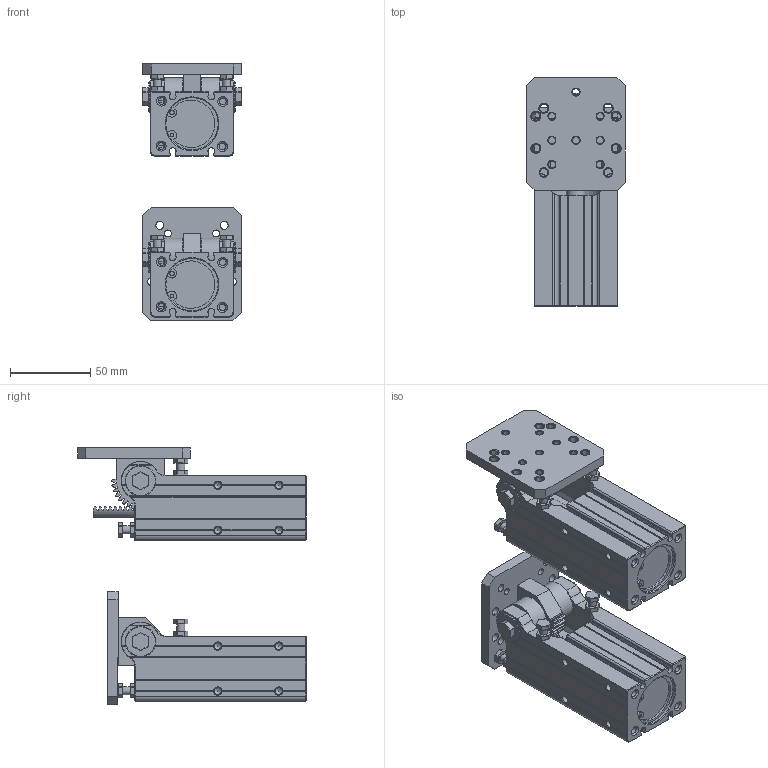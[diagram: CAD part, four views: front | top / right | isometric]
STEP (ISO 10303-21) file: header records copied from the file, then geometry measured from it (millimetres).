
FILE_DESCRIPTION(/* description */ (''),/* implementation_level */ '2;1');
FILE_NAME(/* name */ 'DHR5C-32M30ZG-ZB.stp',/* time_stamp */ '2024-08-24T08:22:48+08:00',/* author */ (''),/* organization */ (''),/* preprocessor_version */ 'ST-DEVELOPER v15',/* originating_system */ 'SIEMENS PLM Software NX 10.0',/* authorisation */ '');
FILE_SCHEMA (('AP203_CONFIGURATION_CONTROLLED_3D_DESIGN_OF_MECHANICAL_PARTS_AND_ASSEMBLIES_MIM_LF { 1 0 10303 403 2 1 2}'));
Products named in the file (1): Admi3E58E46Ep449
Bounding box: 62 x 141.98 x 159.54 mm (x, y, z)
Volume: 469323.2 mm3; surface area: 117475.3 mm2
Topology: 12 solids, 42 shells, 1944 faces, 4898 edges, 3044 vertices
Faces by surface type: plane 1154, cylinder 529, cone 206, torus 54, sphere 1
Full cylindrical faces by diameter (mm): 2 x4, 2.5 x10, 2.583 x4, 4 x7, 4.2 x16, 4.3 x2, 4.5 x4, 5 x26, 8 x4, 8.5 x4, 10 x8, 12 x2, 14 x4, 19 x4, 24 x4, 32.5 x4, 34 x4
Entity records: 58250 total; most frequent: CARTESIAN_POINT 12758, DIRECTION 9456, ORIENTED_EDGE 9072, EDGE_CURVE 4536, AXIS2_PLACEMENT_3D 3299, VERTEX_POINT 2943, LINE 2858, VECTOR 2858
